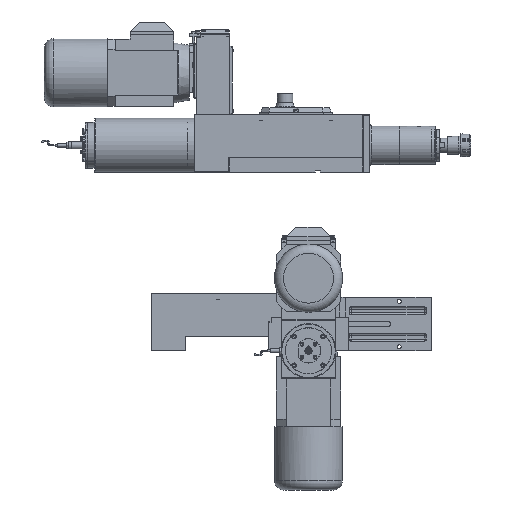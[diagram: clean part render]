
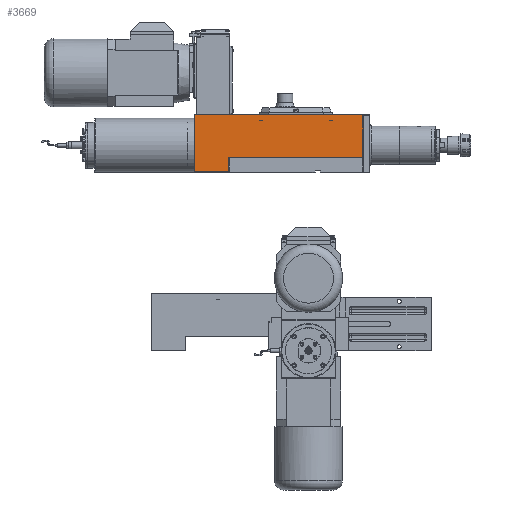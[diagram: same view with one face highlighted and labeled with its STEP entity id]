
A CAD part, front view. The second image highlights one B-rep face of the part: STEP entity #3669.
In plain terms, the highlighted planar face has unit normal (0, -1, 0).
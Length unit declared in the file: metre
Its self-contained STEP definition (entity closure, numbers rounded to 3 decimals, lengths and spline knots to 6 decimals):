
#3669 = ADVANCED_FACE( '', ( #5820 ), #5821, .T. );
#5820 = FACE_OUTER_BOUND( '', #8997, .T. );
#5821 = PLANE( '', #8998 );
#8997 = EDGE_LOOP( '', ( #16154, #16155, #16156, #16157, #16158, #16159 ) );
#8998 = AXIS2_PLACEMENT_3D( '', #16160, #16161, #16162 );
#16154 = ORIENTED_EDGE( '', *, *, #20948, .F. );
#16155 = ORIENTED_EDGE( '', *, *, #20945, .F. );
#16156 = ORIENTED_EDGE( '', *, *, #20944, .F. );
#16157 = ORIENTED_EDGE( '', *, *, #20949, .F. );
#16158 = ORIENTED_EDGE( '', *, *, #20950, .T. );
#16159 = ORIENTED_EDGE( '', *, *, #20951, .T. );
#16160 = CARTESIAN_POINT( '', ( 0.025, -0.019444, 0. ) );
#16161 = DIRECTION( '', ( 0., -1., 0. ) );
#16162 = DIRECTION( '', ( 0., 0., -1. ) );
#20944 = EDGE_CURVE( '', #24216, #24221, #24246, .T. );
#20945 = EDGE_CURVE( '', #24221, #24247, #24248, .T. );
#20948 = EDGE_CURVE( '', #24247, #24252, #24253, .T. );
#20949 = EDGE_CURVE( '', #24254, #24216, #24255, .T. );
#20950 = EDGE_CURVE( '', #24254, #24256, #24257, .T. );
#20951 = EDGE_CURVE( '', #24256, #24252, #24258, .T. );
#24216 = VERTEX_POINT( '', #30229 );
#24221 = VERTEX_POINT( '', #30237 );
#24246 = LINE( '', #30275, #30276 );
#24247 = VERTEX_POINT( '', #30277 );
#24248 = LINE( '', #30278, #30279 );
#24252 = VERTEX_POINT( '', #30285 );
#24253 = LINE( '', #30286, #30287 );
#24254 = VERTEX_POINT( '', #30288 );
#24255 = LINE( '', #30289, #30290 );
#24256 = VERTEX_POINT( '', #30291 );
#24257 = LINE( '', #30292, #30293 );
#24258 = LINE( '', #30294, #30295 );
#30229 = CARTESIAN_POINT( '', ( -0.3465, -0.019444, 0.0005 ) );
#30237 = CARTESIAN_POINT( '', ( -0.3465, -0.019444, 0.1265 ) );
#30275 = CARTESIAN_POINT( '', ( -0.3465, -0.019444, 0. ) );
#30276 = VECTOR( '', #36554, 1. );
#30277 = CARTESIAN_POINT( '', ( 0.0245, -0.019444, 0.1265 ) );
#30278 = CARTESIAN_POINT( '', ( -0.068, -0.019444, 0.1265 ) );
#30279 = VECTOR( '', #36555, 1. );
#30285 = CARTESIAN_POINT( '', ( 0.0245, -0.019444, 0.032 ) );
#30286 = CARTESIAN_POINT( '', ( 0.0245, -0.019444, 0. ) );
#30287 = VECTOR( '', #36558, 1. );
#30288 = CARTESIAN_POINT( '', ( -0.271, -0.019444, 0.0005 ) );
#30289 = CARTESIAN_POINT( '', ( -0.068, -0.019444, 0.0005 ) );
#30290 = VECTOR( '', #36559, 1. );
#30291 = CARTESIAN_POINT( '', ( -0.271, -0.019444, 0.032 ) );
#30292 = CARTESIAN_POINT( '', ( -0.271, -0.019444, 0. ) );
#30293 = VECTOR( '', #36560, 1. );
#30294 = CARTESIAN_POINT( '', ( -0.049, -0.019444, 0.032 ) );
#30295 = VECTOR( '', #36561, 1. );
#36554 = DIRECTION( '', ( 0., 0., 1. ) );
#36555 = DIRECTION( '', ( 1., 0., 0. ) );
#36558 = DIRECTION( '', ( 0., 0., -1. ) );
#36559 = DIRECTION( '', ( -1., 0., 0. ) );
#36560 = DIRECTION( '', ( 0., 0., 1. ) );
#36561 = DIRECTION( '', ( 1., 0., 0. ) );
